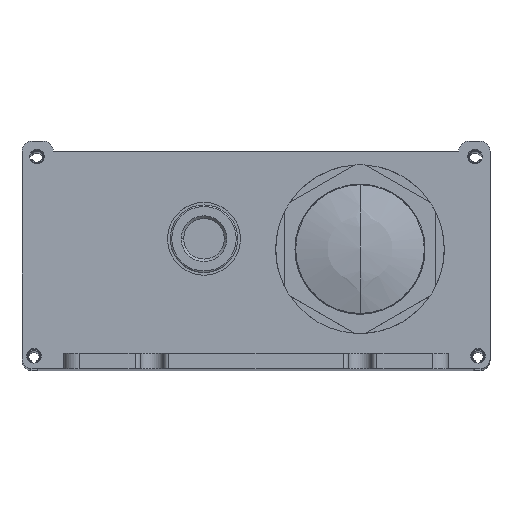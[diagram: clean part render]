
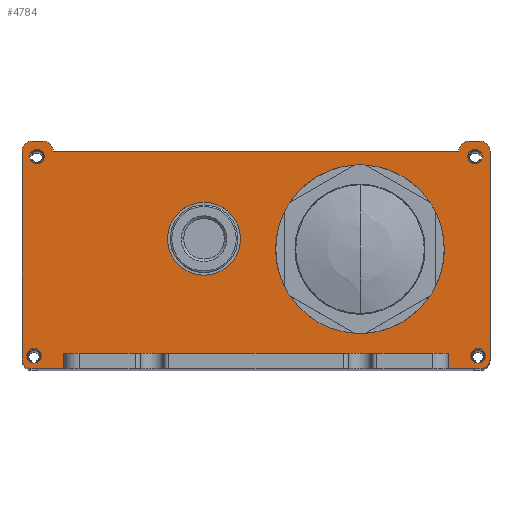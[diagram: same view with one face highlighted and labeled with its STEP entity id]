
A CAD part, top view. The second image highlights one B-rep face of the part: STEP entity #4784.
In plain terms, the highlighted planar face has unit normal (0, 0, 1).
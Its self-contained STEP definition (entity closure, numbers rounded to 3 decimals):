
#3748=DIRECTION('',(-1.,0.,0.));
#3749=VECTOR('',#3748,74.);
#3750=CARTESIAN_POINT('',(82.,3.,3.));
#3751=LINE('',#3750,#3749);
#3812=CARTESIAN_POINT('',(87.1,40.8,3.));
#3813=DIRECTION('',(0.,0.,-1.));
#3814=DIRECTION('',(1.,0.,0.));
#3815=AXIS2_PLACEMENT_3D('',#3812,#3813,#3814);
#3817=CARTESIAN_POINT('',(87.1,40.8,3.));
#3818=DIRECTION('',(0.,0.,-1.));
#3819=DIRECTION('',(-1.,0.,0.));
#3820=AXIS2_PLACEMENT_3D('',#3817,#3818,#3819);
#3822=CARTESIAN_POINT('',(2.9,40.8,3.));
#3823=DIRECTION('',(0.,0.,-1.));
#3824=DIRECTION('',(1.,0.,0.));
#3825=AXIS2_PLACEMENT_3D('',#3822,#3823,#3824);
#3827=CARTESIAN_POINT('',(2.9,40.8,3.));
#3828=DIRECTION('',(0.,0.,-1.));
#3829=DIRECTION('',(-1.,0.,0.));
#3830=AXIS2_PLACEMENT_3D('',#3827,#3828,#3829);
#3832=CARTESIAN_POINT('',(2.3,2.5,3.));
#3833=DIRECTION('',(0.,0.,-1.));
#3834=DIRECTION('',(-1.,0.,0.));
#3835=AXIS2_PLACEMENT_3D('',#3832,#3833,#3834);
#3837=CARTESIAN_POINT('',(2.3,2.5,3.));
#3838=DIRECTION('',(0.,0.,-1.));
#3839=DIRECTION('',(1.,0.,0.));
#3840=AXIS2_PLACEMENT_3D('',#3837,#3838,#3839);
#3842=CARTESIAN_POINT('',(87.7,2.5,3.));
#3843=DIRECTION('',(0.,0.,-1.));
#3844=DIRECTION('',(1.,0.,0.));
#3845=AXIS2_PLACEMENT_3D('',#3842,#3843,#3844);
#3847=CARTESIAN_POINT('',(87.7,2.5,3.));
#3848=DIRECTION('',(0.,0.,-1.));
#3849=DIRECTION('',(-1.,0.,0.));
#3850=AXIS2_PLACEMENT_3D('',#3847,#3848,#3849);
#3852=CARTESIAN_POINT('',(35.,25.,3.));
#3853=DIRECTION('',(0.,0.,-1.));
#3854=DIRECTION('',(-1.,0.,0.));
#3855=AXIS2_PLACEMENT_3D('',#3852,#3853,#3854);
#3857=CARTESIAN_POINT('',(35.,25.,3.));
#3858=DIRECTION('',(0.,0.,-1.));
#3859=DIRECTION('',(1.,0.,0.));
#3860=AXIS2_PLACEMENT_3D('',#3857,#3858,#3859);
#3862=DIRECTION('',(0.,1.,0.));
#3863=VECTOR('',#3862,1.5);
#3864=CARTESIAN_POINT('',(62.3,33.91,3.));
#3865=LINE('',#3864,#3863);
#3866=DIRECTION('',(1.,0.,0.));
#3867=VECTOR('',#3866,3.801);
#3868=CARTESIAN_POINT('',(58.499,33.91,3.));
#3869=LINE('',#3868,#3867);
#3870=CARTESIAN_POINT('',(65.,23.,3.));
#3871=DIRECTION('',(0.,0.,-1.));
#3872=DIRECTION('',(0.512,0.859,0.));
#3873=AXIS2_PLACEMENT_3D('',#3870,#3871,#3872);
#3875=DIRECTION('',(1.,0.,0.));
#3876=VECTOR('',#3875,3.801);
#3877=CARTESIAN_POINT('',(67.7,33.91,3.));
#3878=LINE('',#3877,#3876);
#3879=DIRECTION('',(0.,-1.,0.));
#3880=VECTOR('',#3879,1.5);
#3881=CARTESIAN_POINT('',(67.7,35.41,3.));
#3882=LINE('',#3881,#3880);
#3883=CARTESIAN_POINT('',(65.,23.,3.));
#3884=DIRECTION('',(0.,0.,-1.));
#3885=DIRECTION('',(-0.213,0.977,0.));
#3886=AXIS2_PLACEMENT_3D('',#3883,#3884,#3885);
#3888=DIRECTION('',(1.,0.,0.));
#3889=VECTOR('',#3888,6.);
#3890=CARTESIAN_POINT('',(2.,0.,3.));
#3891=LINE('',#3890,#3889);
#3892=CARTESIAN_POINT('',(2.,2.,3.));
#3893=DIRECTION('',(0.,0.,1.));
#3894=DIRECTION('',(-1.,0.,0.));
#3895=AXIS2_PLACEMENT_3D('',#3892,#3893,#3894);
#3897=DIRECTION('',(0.,-1.,0.));
#3898=VECTOR('',#3897,39.8);
#3899=CARTESIAN_POINT('',(0.,41.8,3.));
#3900=LINE('',#3899,#3898);
#3901=CARTESIAN_POINT('',(2.,41.8,3.));
#3902=DIRECTION('',(0.,0.,1.));
#3903=DIRECTION('',(0.,1.,0.));
#3904=AXIS2_PLACEMENT_3D('',#3901,#3902,#3903);
#3906=DIRECTION('',(-1.,0.,0.));
#3907=VECTOR('',#3906,2.);
#3908=CARTESIAN_POINT('',(4.,43.8,3.));
#3909=LINE('',#3908,#3907);
#3910=CARTESIAN_POINT('',(4.,41.8,3.));
#3911=DIRECTION('',(0.,0.,1.));
#3912=DIRECTION('',(1.,0.,0.));
#3913=AXIS2_PLACEMENT_3D('',#3910,#3911,#3912);
#3915=DIRECTION('',(-1.,0.,0.));
#3916=VECTOR('',#3915,78.);
#3917=CARTESIAN_POINT('',(84.,41.8,3.));
#3918=LINE('',#3917,#3916);
#3919=CARTESIAN_POINT('',(86.,41.8,3.));
#3920=DIRECTION('',(0.,0.,1.));
#3921=DIRECTION('',(0.,1.,0.));
#3922=AXIS2_PLACEMENT_3D('',#3919,#3920,#3921);
#3924=DIRECTION('',(-1.,0.,0.));
#3925=VECTOR('',#3924,2.);
#3926=CARTESIAN_POINT('',(88.,43.8,3.));
#3927=LINE('',#3926,#3925);
#3928=CARTESIAN_POINT('',(88.,41.8,3.));
#3929=DIRECTION('',(0.,0.,1.));
#3930=DIRECTION('',(1.,0.,0.));
#3931=AXIS2_PLACEMENT_3D('',#3928,#3929,#3930);
#3933=DIRECTION('',(0.,1.,0.));
#3934=VECTOR('',#3933,39.8);
#3935=CARTESIAN_POINT('',(90.,2.,3.));
#3936=LINE('',#3935,#3934);
#3937=CARTESIAN_POINT('',(88.,2.,3.));
#3938=DIRECTION('',(0.,0.,1.));
#3939=DIRECTION('',(0.,-1.,0.));
#3940=AXIS2_PLACEMENT_3D('',#3937,#3938,#3939);
#3942=DIRECTION('',(1.,0.,0.));
#3943=VECTOR('',#3942,6.);
#3944=CARTESIAN_POINT('',(82.,0.,3.));
#3945=LINE('',#3944,#3943);
#4015=DIRECTION('',(0.,-1.,0.));
#4016=VECTOR('',#4015,3.);
#4017=CARTESIAN_POINT('',(8.,3.,3.));
#4018=LINE('',#4017,#4016);
#4107=DIRECTION('',(0.,1.,0.));
#4108=VECTOR('',#4107,3.);
#4109=CARTESIAN_POINT('',(82.,0.,3.));
#4110=LINE('',#4109,#4108);
#4255=CARTESIAN_POINT('',(88.,43.8,3.));
#4256=CARTESIAN_POINT('',(86.,43.8,3.));
#4257=VERTEX_POINT('',#4255);
#4258=VERTEX_POINT('',#4256);
#4259=CARTESIAN_POINT('',(84.,41.8,3.));
#4260=VERTEX_POINT('',#4259);
#4261=CARTESIAN_POINT('',(6.,41.8,3.));
#4262=VERTEX_POINT('',#4261);
#4263=CARTESIAN_POINT('',(4.,43.8,3.));
#4264=VERTEX_POINT('',#4263);
#4265=CARTESIAN_POINT('',(2.,43.8,3.));
#4266=VERTEX_POINT('',#4265);
#4267=CARTESIAN_POINT('',(0.,41.8,3.));
#4268=VERTEX_POINT('',#4267);
#4269=CARTESIAN_POINT('',(0.,2.,3.));
#4270=VERTEX_POINT('',#4269);
#4271=CARTESIAN_POINT('',(2.,0.,3.));
#4272=VERTEX_POINT('',#4271);
#4273=CARTESIAN_POINT('',(88.,0.,3.));
#4274=CARTESIAN_POINT('',(90.,2.,3.));
#4275=VERTEX_POINT('',#4273);
#4276=VERTEX_POINT('',#4274);
#4277=CARTESIAN_POINT('',(90.,41.8,3.));
#4278=VERTEX_POINT('',#4277);
#4279=CARTESIAN_POINT('',(88.5,40.8,3.));
#4280=CARTESIAN_POINT('',(85.7,40.8,3.));
#4281=VERTEX_POINT('',#4279);
#4282=VERTEX_POINT('',#4280);
#4283=CARTESIAN_POINT('',(4.3,40.8,3.));
#4284=CARTESIAN_POINT('',(1.5,40.8,3.));
#4285=VERTEX_POINT('',#4283);
#4286=VERTEX_POINT('',#4284);
#4287=CARTESIAN_POINT('',(0.9,2.5,3.));
#4288=CARTESIAN_POINT('',(3.7,2.5,3.));
#4289=VERTEX_POINT('',#4287);
#4290=VERTEX_POINT('',#4288);
#4291=CARTESIAN_POINT('',(89.1,2.5,3.));
#4292=CARTESIAN_POINT('',(86.3,2.5,3.));
#4293=VERTEX_POINT('',#4291);
#4294=VERTEX_POINT('',#4292);
#4295=CARTESIAN_POINT('',(28.,25.,3.));
#4296=CARTESIAN_POINT('',(42.,25.,3.));
#4297=VERTEX_POINT('',#4295);
#4298=VERTEX_POINT('',#4296);
#4299=CARTESIAN_POINT('',(62.3,33.91,3.));
#4300=CARTESIAN_POINT('',(62.3,35.41,3.));
#4301=VERTEX_POINT('',#4299);
#4302=VERTEX_POINT('',#4300);
#4303=CARTESIAN_POINT('',(67.7,35.41,3.));
#4304=VERTEX_POINT('',#4303);
#4305=CARTESIAN_POINT('',(67.7,33.91,3.));
#4306=VERTEX_POINT('',#4305);
#4307=CARTESIAN_POINT('',(71.501,33.91,3.));
#4308=VERTEX_POINT('',#4307);
#4309=CARTESIAN_POINT('',(58.499,33.91,3.));
#4310=VERTEX_POINT('',#4309);
#4311=CARTESIAN_POINT('',(8.,3.,3.));
#4312=CARTESIAN_POINT('',(8.,0.,3.));
#4313=VERTEX_POINT('',#4311);
#4314=VERTEX_POINT('',#4312);
#4315=CARTESIAN_POINT('',(82.,0.,3.));
#4316=CARTESIAN_POINT('',(82.,3.,3.));
#4317=VERTEX_POINT('',#4315);
#4318=VERTEX_POINT('',#4316);
#4715=CARTESIAN_POINT('',(0.,0.,3.));
#4716=DIRECTION('',(0.,0.,1.));
#4717=DIRECTION('',(1.,0.,0.));
#4718=AXIS2_PLACEMENT_3D('',#4715,#4716,#4717);
#4719=PLANE('',#4718);
#4721=ORIENTED_EDGE('',*,*,#4720,.T.);
#4722=ORIENTED_EDGE('',*,*,#4562,.F.);
#4723=ORIENTED_EDGE('',*,*,#4402,.F.);
#4724=ORIENTED_EDGE('',*,*,#4417,.F.);
#4725=ORIENTED_EDGE('',*,*,#4431,.F.);
#4726=ORIENTED_EDGE('',*,*,#4445,.F.);
#4727=ORIENTED_EDGE('',*,*,#4459,.F.);
#4728=ORIENTED_EDGE('',*,*,#4473,.F.);
#4729=ORIENTED_EDGE('',*,*,#4487,.F.);
#4730=ORIENTED_EDGE('',*,*,#4501,.F.);
#4731=ORIENTED_EDGE('',*,*,#4515,.F.);
#4732=ORIENTED_EDGE('',*,*,#4529,.F.);
#4733=ORIENTED_EDGE('',*,*,#4543,.F.);
#4734=ORIENTED_EDGE('',*,*,#4557,.F.);
#4736=ORIENTED_EDGE('',*,*,#4735,.T.);
#4737=ORIENTED_EDGE('',*,*,#4670,.T.);
#4738=EDGE_LOOP('',(#4721,#4722,#4723,#4724,#4725,#4726,#4727,#4728,#4729,#4730,
#4731,#4732,#4733,#4734,#4736,#4737));
#4739=FACE_OUTER_BOUND('',#4738,.F.);
#4741=ORIENTED_EDGE('',*,*,#4740,.F.);
#4743=ORIENTED_EDGE('',*,*,#4742,.F.);
#4744=EDGE_LOOP('',(#4741,#4743));
#4745=FACE_BOUND('',#4744,.F.);
#4747=ORIENTED_EDGE('',*,*,#4746,.F.);
#4749=ORIENTED_EDGE('',*,*,#4748,.F.);
#4750=EDGE_LOOP('',(#4747,#4749));
#4751=FACE_BOUND('',#4750,.F.);
#4753=ORIENTED_EDGE('',*,*,#4752,.F.);
#4755=ORIENTED_EDGE('',*,*,#4754,.F.);
#4756=EDGE_LOOP('',(#4753,#4755));
#4757=FACE_BOUND('',#4756,.F.);
#4759=ORIENTED_EDGE('',*,*,#4758,.F.);
#4761=ORIENTED_EDGE('',*,*,#4760,.F.);
#4762=EDGE_LOOP('',(#4759,#4761));
#4763=FACE_BOUND('',#4762,.F.);
#4765=ORIENTED_EDGE('',*,*,#4764,.F.);
#4767=ORIENTED_EDGE('',*,*,#4766,.F.);
#4769=ORIENTED_EDGE('',*,*,#4768,.F.);
#4771=ORIENTED_EDGE('',*,*,#4770,.F.);
#4773=ORIENTED_EDGE('',*,*,#4772,.F.);
#4775=ORIENTED_EDGE('',*,*,#4774,.F.);
#4776=EDGE_LOOP('',(#4765,#4767,#4769,#4771,#4773,#4775));
#4777=FACE_BOUND('',#4776,.F.);
#4779=ORIENTED_EDGE('',*,*,#4778,.F.);
#4781=ORIENTED_EDGE('',*,*,#4780,.F.);
#4782=EDGE_LOOP('',(#4779,#4781));
#4783=FACE_BOUND('',#4782,.F.);
#3816=CIRCLE('',#3815,1.4);
#3821=CIRCLE('',#3820,1.4);
#3826=CIRCLE('',#3825,1.4);
#3831=CIRCLE('',#3830,1.4);
#3836=CIRCLE('',#3835,1.4);
#3841=CIRCLE('',#3840,1.4);
#3846=CIRCLE('',#3845,1.4);
#3851=CIRCLE('',#3850,1.4);
#3856=CIRCLE('',#3855,7.);
#3861=CIRCLE('',#3860,7.);
#3874=CIRCLE('',#3873,12.7);
#3887=CIRCLE('',#3886,12.7);
#3896=CIRCLE('',#3895,2.);
#3905=CIRCLE('',#3904,2.);
#3914=CIRCLE('',#3913,2.);
#3923=CIRCLE('',#3922,2.);
#3932=CIRCLE('',#3931,2.);
#3941=CIRCLE('',#3940,2.);
#4402=EDGE_CURVE('',#4270,#4272,#3896,.T.);
#4417=EDGE_CURVE('',#4268,#4270,#3900,.T.);
#4431=EDGE_CURVE('',#4266,#4268,#3905,.T.);
#4445=EDGE_CURVE('',#4264,#4266,#3909,.T.);
#4459=EDGE_CURVE('',#4262,#4264,#3914,.T.);
#4473=EDGE_CURVE('',#4260,#4262,#3918,.T.);
#4487=EDGE_CURVE('',#4258,#4260,#3923,.T.);
#4501=EDGE_CURVE('',#4257,#4258,#3927,.T.);
#4515=EDGE_CURVE('',#4278,#4257,#3932,.T.);
#4529=EDGE_CURVE('',#4276,#4278,#3936,.T.);
#4543=EDGE_CURVE('',#4275,#4276,#3941,.T.);
#4557=EDGE_CURVE('',#4317,#4275,#3945,.T.);
#4562=EDGE_CURVE('',#4272,#4314,#3891,.T.);
#4670=EDGE_CURVE('',#4318,#4313,#3751,.T.);
#4720=EDGE_CURVE('',#4313,#4314,#4018,.T.);
#4735=EDGE_CURVE('',#4317,#4318,#4110,.T.);
#4740=EDGE_CURVE('',#4285,#4286,#3826,.T.);
#4742=EDGE_CURVE('',#4286,#4285,#3831,.T.);
#4746=EDGE_CURVE('',#4289,#4290,#3836,.T.);
#4748=EDGE_CURVE('',#4290,#4289,#3841,.T.);
#4752=EDGE_CURVE('',#4293,#4294,#3846,.T.);
#4754=EDGE_CURVE('',#4294,#4293,#3851,.T.);
#4758=EDGE_CURVE('',#4297,#4298,#3856,.T.);
#4760=EDGE_CURVE('',#4298,#4297,#3861,.T.);
#4764=EDGE_CURVE('',#4301,#4302,#3865,.T.);
#4766=EDGE_CURVE('',#4310,#4301,#3869,.T.);
#4768=EDGE_CURVE('',#4308,#4310,#3874,.T.);
#4770=EDGE_CURVE('',#4306,#4308,#3878,.T.);
#4772=EDGE_CURVE('',#4304,#4306,#3882,.T.);
#4774=EDGE_CURVE('',#4302,#4304,#3887,.T.);
#4778=EDGE_CURVE('',#4281,#4282,#3816,.T.);
#4780=EDGE_CURVE('',#4282,#4281,#3821,.T.);
#4784=ADVANCED_FACE('',(#4739,#4745,#4751,#4757,#4763,#4777,#4783),#4719,.T.);
